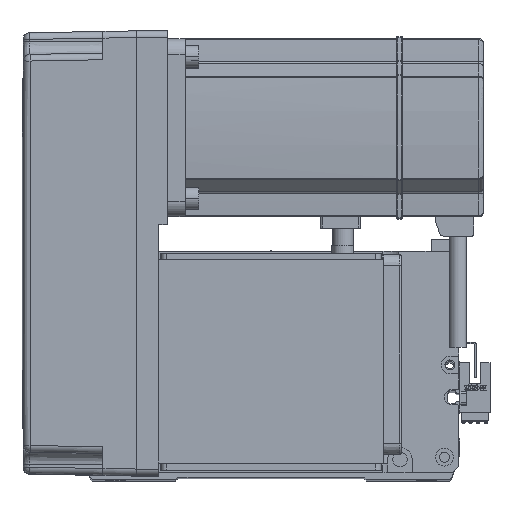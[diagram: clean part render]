
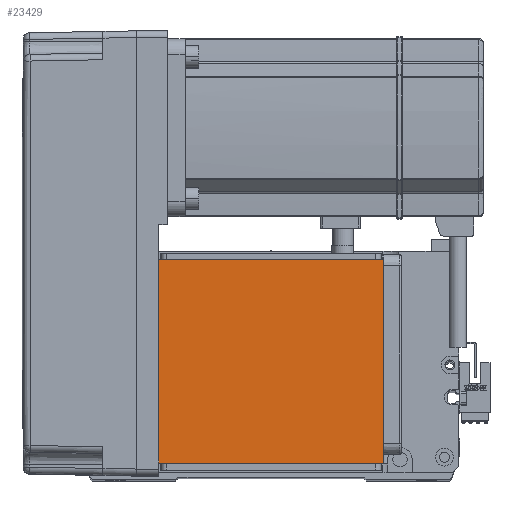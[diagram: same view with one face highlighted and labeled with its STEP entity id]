
A CAD part, top view. The second image highlights one B-rep face of the part: STEP entity #23429.
In plain terms, the highlighted planar face has unit normal (0, 0, 1).
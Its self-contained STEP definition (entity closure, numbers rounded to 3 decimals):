
#470 = CARTESIAN_POINT ( 'NONE',  ( -70.004, 20., 115. ) ) ;
#3696 = LINE ( 'NONE', #26473, #25159 ) ;
#5247 = ORIENTED_EDGE ( 'NONE', *, *, #53268, .F. ) ;
#6913 = LINE ( 'NONE', #470, #51993 ) ;
#8619 = EDGE_CURVE ( 'NONE', #15998, #21554, #3696, .T. ) ;
#8681 = DIRECTION ( 'NONE',  ( -1., 0., 0. ) ) ;
#10320 = CARTESIAN_POINT ( 'NONE',  ( 50.5, 122., 115. ) ) ;
#10718 = FACE_OUTER_BOUND ( 'NONE', #20837, .T. ) ;
#10745 = EDGE_CURVE ( 'NONE', #15998, #11647, #41070, .T. ) ;
#10796 = CARTESIAN_POINT ( 'NONE',  ( 50.5, 20., 115. ) ) ;
#11621 = VECTOR ( 'NONE', #53702, 1000. ) ;
#11647 = VERTEX_POINT ( 'NONE', #52277 ) ;
#12119 = CARTESIAN_POINT ( 'NONE',  ( 0., 0., 115. ) ) ;
#13068 = CARTESIAN_POINT ( 'NONE',  ( -50.5, 122., 115. ) ) ;
#14179 = VERTEX_POINT ( 'NONE', #10796 ) ;
#15998 = VERTEX_POINT ( 'NONE', #51800 ) ;
#16589 = DIRECTION ( 'NONE',  ( 1., 0., 0. ) ) ;
#18600 = EDGE_CURVE ( 'NONE', #14179, #21554, #27080, .T. ) ;
#20383 = ORIENTED_EDGE ( 'NONE', *, *, #18600, .T. ) ;
#20837 = EDGE_LOOP ( 'NONE', ( #46050, #38110, #5247, #20383 ) ) ;
#21554 = VERTEX_POINT ( 'NONE', #52478 ) ;
#21686 = DIRECTION ( 'NONE',  ( 0., -1., 0. ) ) ;
#23429 = ADVANCED_FACE ( 'NONE', ( #10718 ), #37991, .T. ) ;
#25159 = VECTOR ( 'NONE', #48048, 1000. ) ;
#26473 = CARTESIAN_POINT ( 'NONE',  ( -70.004, 111.5, 115. ) ) ;
#27080 = LINE ( 'NONE', #10320, #11621 ) ;
#34280 = VECTOR ( 'NONE', #21686, 1000. ) ;
#37800 = DIRECTION ( 'NONE',  ( 0., 0., 1. ) ) ;
#37991 = PLANE ( 'NONE',  #44181 ) ;
#38110 = ORIENTED_EDGE ( 'NONE', *, *, #10745, .T. ) ;
#41070 = LINE ( 'NONE', #13068, #34280 ) ;
#44181 = AXIS2_PLACEMENT_3D ( 'NONE', #12119, #37800, #16589 ) ;
#46050 = ORIENTED_EDGE ( 'NONE', *, *, #8619, .F. ) ;
#48048 = DIRECTION ( 'NONE',  ( 1., 0., 0. ) ) ;
#51800 = CARTESIAN_POINT ( 'NONE',  ( -50.5, 111.5, 115. ) ) ;
#51993 = VECTOR ( 'NONE', #8681, 1000. ) ;
#52277 = CARTESIAN_POINT ( 'NONE',  ( -50.5, 20., 115. ) ) ;
#52478 = CARTESIAN_POINT ( 'NONE',  ( 50.5, 111.5, 115. ) ) ;
#53268 = EDGE_CURVE ( 'NONE', #14179, #11647, #6913, .T. ) ;
#53702 = DIRECTION ( 'NONE',  ( 0., 1., 0. ) ) ;
